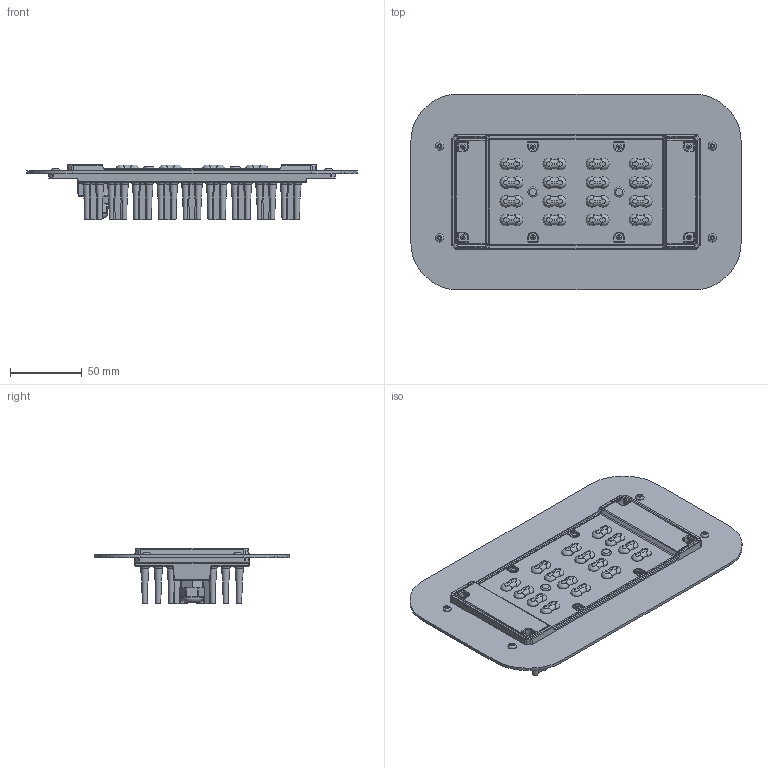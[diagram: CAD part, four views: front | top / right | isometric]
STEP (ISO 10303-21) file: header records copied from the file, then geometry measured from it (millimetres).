
FILE_DESCRIPTION(/* description */ (''),/* implementation_level */ '2;1');
FILE_NAME(/* name */ 'C:/Users/elena/OneDrive/Allegati di posta elettronica/Desktop/Cerbero recessed.step',/* time_stamp */ '2020-05-11T13:02:51+02:00',/* author */ (''),/* organization */ (''),/* preprocessor_version */ 'ST-DEVELOPER v18.1',/* originating_system */ 'Autodesk Translation Framework v9.2.0.1227',/* authorisation */ '');
FILE_SCHEMA (('AUTOMOTIVE_DESIGN { 1 0 10303 214 3 1 1 }'));
Products named in the file (1): Pubblico
Bounding box: 230 x 136 x 38.52 mm (x, y, z)
Volume: 242173.3 mm3; surface area: 191419.6 mm2
Topology: 6 solids, 6 shells, 2893 faces, 7340 edges, 4578 vertices
Faces by surface type: bspline 1180, plane 844, cylinder 535, torus 310, cone 18, sphere 6
Full cylindrical faces by diameter (mm): 1.8 x2, 2.2 x2, 2.24 x8, 3.2 x17, 3.5 x1, 4.2 x2, 4.5 x8, 5.4 x16, 7 x4, 12.3 x2, 12.7 x1, 13 x1, 15 x1
Entity records: 163263 total; most frequent: CARTESIAN_POINT 101142, ORIENTED_EDGE 14688, DIRECTION 10855, EDGE_CURVE 7344, VERTEX_POINT 4582, AXIS2_PLACEMENT_3D 4310, EDGE_LOOP 3048, FACE_OUTER_BOUND 2893
